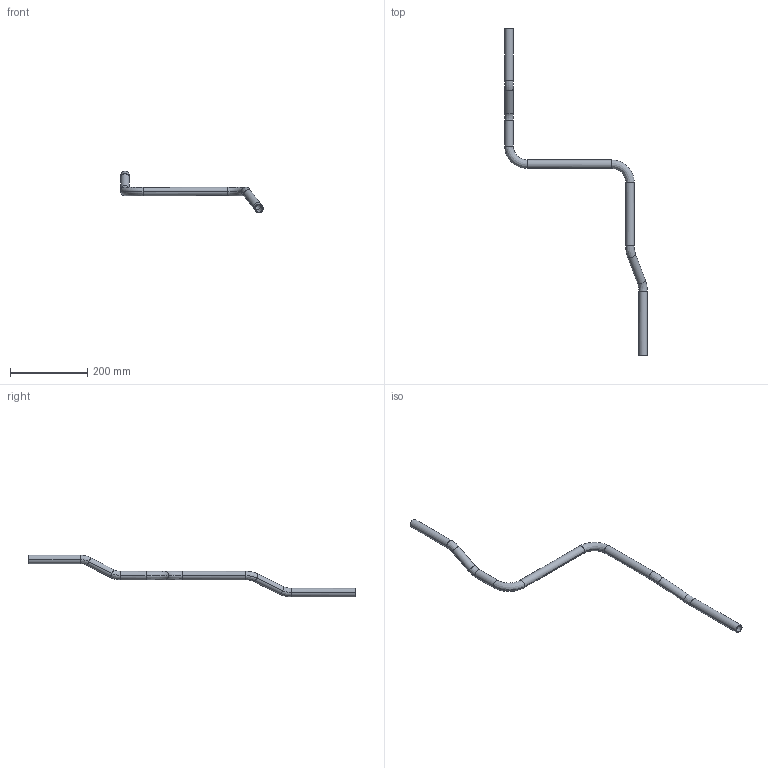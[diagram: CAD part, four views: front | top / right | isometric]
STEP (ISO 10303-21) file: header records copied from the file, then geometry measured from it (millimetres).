
FILE_DESCRIPTION(('CATIA V5 STEP Exchange','CAx-IF Rec.Pracs.--- Model Styling and Organization---1.2---2011-12-15'),'2;1');
FILE_NAME('c:\aplikace\smarteam\Temp\DO584474.step','2016-06-24T11:38:46+00:00',('none'),('none'),'CATIA Version 5 Release 21 SP 6 (IN-10)','CATIA V5 STEP AP214','none');
FILE_SCHEMA(('AUTOMOTIVE_DESIGN { 1 0 10303 214 1 1 1 1 }'));
Length unit declared in the file: millimetre
Products named in the file (1): DO584474, TRUBKA R2T4
Bounding box: 369 x 846 x 107.5 mm (x, y, z)
Volume: 110352.9 mm3; surface area: 147330.4 mm2
Topology: 1 solids, 1 shells, 54 faces, 108 edges, 56 vertices
Faces by surface type: cylinder 28, bspline 24, plane 2
Entity records: 2149 total; most frequent: CARTESIAN_POINT 1275, ORIENTED_EDGE 216, DIRECTION 120, EDGE_CURVE 108, AXIS2_PLACEMENT_3D 63, EDGE_LOOP 56, VERTEX_POINT 56, ADVANCED_FACE 54
